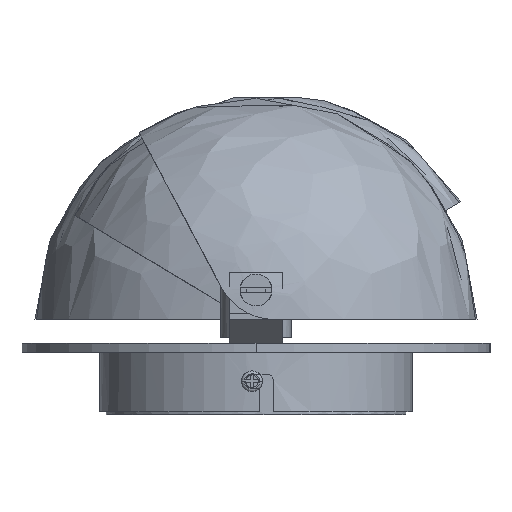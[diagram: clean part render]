
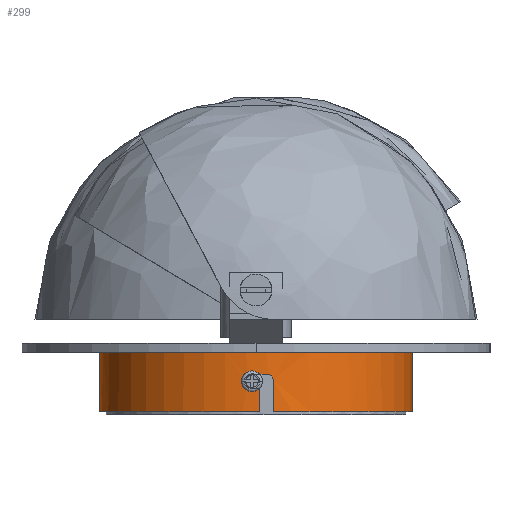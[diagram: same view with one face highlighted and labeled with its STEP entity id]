
A CAD part, left-side view. The second image highlights one B-rep face of the part: STEP entity #299.
In plain terms, the highlighted free-form (B-spline) face has degree [2, 1] with [5, 2] control points.
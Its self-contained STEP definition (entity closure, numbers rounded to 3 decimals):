
#299=ADVANCED_FACE('',(#710),#5749,.T.);
#710=FACE_OUTER_BOUND('',#1109,.T.);
#1109=EDGE_LOOP('',(#2606,#2607,#2608,#2609,#2610,#2611,#2612,#2613,#2614,
#2615,#2616));
#2606=ORIENTED_EDGE('',*,*,#3892,.T.);
#2607=ORIENTED_EDGE('',*,*,#3893,.T.);
#2608=ORIENTED_EDGE('',*,*,#3717,.T.);
#2609=ORIENTED_EDGE('',*,*,#3849,.T.);
#2610=ORIENTED_EDGE('',*,*,#3862,.T.);
#2611=ORIENTED_EDGE('',*,*,#3856,.F.);
#2612=ORIENTED_EDGE('',*,*,#3867,.F.);
#2613=ORIENTED_EDGE('',*,*,#3872,.T.);
#2614=ORIENTED_EDGE('',*,*,#3720,.F.);
#2615=ORIENTED_EDGE('',*,*,#3718,.F.);
#2616=ORIENTED_EDGE('',*,*,#3722,.T.);
#3717=EDGE_CURVE('',#5305,#5303,#4719,.T.);
#3718=EDGE_CURVE('',#5299,#5306,#4266,.T.);
#3720=EDGE_CURVE('',#5306,#5300,#4268,.T.);
#3722=EDGE_CURVE('',#5299,#5405,#4270,.T.);
#3849=EDGE_CURVE('',#5303,#5385,#4308,.T.);
#3856=EDGE_CURVE('',#5387,#5388,#4315,.T.);
#3862=EDGE_CURVE('',#5385,#5388,#4810,.T.);
#3867=EDGE_CURVE('',#5391,#5387,#4815,.T.);
#3872=EDGE_CURVE('',#5391,#5300,#4820,.T.);
#3892=EDGE_CURVE('',#5405,#5406,#4337,.T.);
#3893=EDGE_CURVE('',#5406,#5305,#4338,.T.);
#4266=(
BOUNDED_CURVE()
B_SPLINE_CURVE(1,(#12141,#12142),.UNSPECIFIED.,.F.,.F.)
B_SPLINE_CURVE_WITH_KNOTS((2,2),(0.,19.),.UNSPECIFIED.)
CURVE()
GEOMETRIC_REPRESENTATION_ITEM()
RATIONAL_B_SPLINE_CURVE((1.,1.))
REPRESENTATION_ITEM('')
);
#4268=(
BOUNDED_CURVE()
B_SPLINE_CURVE(2,(#12146,#12147,#12148),.UNSPECIFIED.,.F.,.F.)
B_SPLINE_CURVE_WITH_KNOTS((3,3),(0.,72.442),.UNSPECIFIED.)
CURVE()
GEOMETRIC_REPRESENTATION_ITEM()
RATIONAL_B_SPLINE_CURVE((1.,0.746,1.))
REPRESENTATION_ITEM('')
);
#4270=(
BOUNDED_CURVE()
B_SPLINE_CURVE(2,(#12154,#12155,#12156,#12157,#12158),.UNSPECIFIED.,.F.,
 .F.)
B_SPLINE_CURVE_WITH_KNOTS((3,2,3),(0.,78.54,157.08),
 .UNSPECIFIED.)
CURVE()
GEOMETRIC_REPRESENTATION_ITEM()
RATIONAL_B_SPLINE_CURVE((1.,0.707,1.,0.707,1.))
REPRESENTATION_ITEM('')
);
#4308=(
BOUNDED_CURVE()
B_SPLINE_CURVE(2,(#12756,#12757,#12758,#12759,#12760),.UNSPECIFIED.,.F.,
 .F.)
B_SPLINE_CURVE_WITH_KNOTS((3,2,3),(77.323,78.54,79.756),
 .UNSPECIFIED.)
CURVE()
GEOMETRIC_REPRESENTATION_ITEM()
RATIONAL_B_SPLINE_CURVE((1.,1.,1.,1.,1.))
REPRESENTATION_ITEM('')
);
#4315=(
BOUNDED_CURVE()
B_SPLINE_CURVE(2,(#12782,#12783,#12784,#12785,#12786),.UNSPECIFIED.,.F.,
 .F.)
B_SPLINE_CURVE_WITH_KNOTS((3,2,3),(74.595,78.54,79.756),
 .UNSPECIFIED.)
CURVE()
GEOMETRIC_REPRESENTATION_ITEM()
RATIONAL_B_SPLINE_CURVE((1.,0.999,1.,1.,1.))
REPRESENTATION_ITEM('')
);
#4337=(
BOUNDED_CURVE()
B_SPLINE_CURVE(1,(#13067,#13068),.UNSPECIFIED.,.F.,.F.)
B_SPLINE_CURVE_WITH_KNOTS((2,2),(0.,19.),.UNSPECIFIED.)
CURVE()
GEOMETRIC_REPRESENTATION_ITEM()
RATIONAL_B_SPLINE_CURVE((1.,1.))
REPRESENTATION_ITEM('')
);
#4338=(
BOUNDED_CURVE()
B_SPLINE_CURVE(2,(#13069,#13070,#13071,#13072,#13073),.UNSPECIFIED.,.F.,
 .F.)
B_SPLINE_CURVE_WITH_KNOTS((3,2,3),(-157.08,-78.54,-77.323),
 .UNSPECIFIED.)
CURVE()
GEOMETRIC_REPRESENTATION_ITEM()
RATIONAL_B_SPLINE_CURVE((1.,0.707,1.,1.,1.))
REPRESENTATION_ITEM('')
);
#4719=B_SPLINE_CURVE_WITH_KNOTS('',1,(#12139,#12140),.UNSPECIFIED.,.F.,
 .F.,(2,2),(-19.,-11.5),.UNSPECIFIED.);
#4810=B_SPLINE_CURVE_WITH_KNOTS('',3,(#12820,#12821,#12822,#12823,#12824,
#12825,#12826,#12827,#12828,#12829,#12830,#12831,#12832,#12833,#12834,#12835,
#12836,#12837,#12838),.UNSPECIFIED.,.F.,.F.,(4,2,2,2,3,2,2,2,4),(0.,0.89,
1.779,2.669,3.559,4.448,5.338,
6.228,7.117),.UNSPECIFIED.);
#4815=B_SPLINE_CURVE_WITH_KNOTS('',3,(#12889,#12890,#12891,#12892,#12893,
#12894,#12895,#12896,#12897,#12898),.UNSPECIFIED.,.F.,.F.,(4,2,2,2,4),(0.,
0.792,1.585,2.376,3.168),
 .UNSPECIFIED.);
#4820=B_SPLINE_CURVE_WITH_KNOTS('',1,(#12923,#12924),.UNSPECIFIED.,.F.,
 .F.,(2,2),(9.,19.),.UNSPECIFIED.);
#5299=VERTEX_POINT('',#11696);
#5300=VERTEX_POINT('',#11697);
#5303=VERTEX_POINT('',#11700);
#5305=VERTEX_POINT('',#11702);
#5306=VERTEX_POINT('',#11703);
#5385=VERTEX_POINT('',#11782);
#5387=VERTEX_POINT('',#11784);
#5388=VERTEX_POINT('',#11785);
#5391=VERTEX_POINT('',#11788);
#5405=VERTEX_POINT('',#11802);
#5406=VERTEX_POINT('',#11803);
#5749=(
BOUNDED_SURFACE()
B_SPLINE_SURFACE(2,1,((#11095,#11096),(#11097,#11098),(#11099,#11100),(#11101,
#11102),(#11103,#11104)),.UNSPECIFIED.,.F.,.F.,.F.)
B_SPLINE_SURFACE_WITH_KNOTS((3,2,3),(2,2),(0.,78.54,157.08),
(0.,20.),.UNSPECIFIED.)
GEOMETRIC_REPRESENTATION_ITEM()
RATIONAL_B_SPLINE_SURFACE(((1.,1.),(0.707,0.707),
(1.,1.),(0.707,0.707),(1.,1.)))
REPRESENTATION_ITEM('')
SURFACE()
);
#11095=CARTESIAN_POINT('',(750.326,-871.719,0.));
#11096=CARTESIAN_POINT('',(750.326,-871.719,-20.));
#11097=CARTESIAN_POINT('',(700.326,-871.719,0.));
#11098=CARTESIAN_POINT('',(700.326,-871.719,-20.));
#11099=CARTESIAN_POINT('',(700.326,-821.719,0.));
#11100=CARTESIAN_POINT('',(700.326,-821.719,-20.));
#11101=CARTESIAN_POINT('',(700.326,-771.719,0.));
#11102=CARTESIAN_POINT('',(700.326,-771.719,-20.));
#11103=CARTESIAN_POINT('',(750.326,-771.719,0.));
#11104=CARTESIAN_POINT('',(750.326,-771.719,-20.));
#11696=CARTESIAN_POINT('',(750.326,-871.719,0.));
#11697=CARTESIAN_POINT('',(700.641,-827.319,-19.));
#11700=CARTESIAN_POINT('',(700.338,-822.819,-11.5));
#11702=CARTESIAN_POINT('',(700.338,-822.819,-19.));
#11703=CARTESIAN_POINT('',(750.326,-871.719,-19.));
#11782=CARTESIAN_POINT('',(700.338,-820.619,-11.5));
#11784=CARTESIAN_POINT('',(700.456,-825.319,-7.));
#11785=CARTESIAN_POINT('',(700.338,-820.619,-7.));
#11788=CARTESIAN_POINT('',(700.641,-827.319,-9.));
#11802=CARTESIAN_POINT('',(750.326,-771.719,0.));
#11803=CARTESIAN_POINT('',(750.326,-771.719,-19.));
#12139=CARTESIAN_POINT('',(700.338,-822.819,-19.));
#12140=CARTESIAN_POINT('',(700.338,-822.819,-11.5));
#12141=CARTESIAN_POINT('',(750.326,-871.719,0.));
#12142=CARTESIAN_POINT('',(750.326,-871.719,-19.));
#12146=CARTESIAN_POINT('',(750.326,-871.719,-19.));
#12147=CARTESIAN_POINT('',(705.645,-871.719,-19.));
#12148=CARTESIAN_POINT('',(700.641,-827.319,-19.));
#12154=CARTESIAN_POINT('',(750.326,-871.719,0.));
#12155=CARTESIAN_POINT('',(700.326,-871.719,0.));
#12156=CARTESIAN_POINT('',(700.326,-821.719,0.));
#12157=CARTESIAN_POINT('',(700.326,-771.719,0.));
#12158=CARTESIAN_POINT('',(750.326,-771.719,0.));
#12756=CARTESIAN_POINT('',(700.338,-822.819,-11.5));
#12757=CARTESIAN_POINT('',(700.326,-822.269,-11.5));
#12758=CARTESIAN_POINT('',(700.326,-821.719,-11.5));
#12759=CARTESIAN_POINT('',(700.326,-821.169,-11.5));
#12760=CARTESIAN_POINT('',(700.338,-820.619,-11.5));
#12782=CARTESIAN_POINT('',(700.456,-825.319,-7.));
#12783=CARTESIAN_POINT('',(700.326,-823.522,-7.));
#12784=CARTESIAN_POINT('',(700.326,-821.719,-7.));
#12785=CARTESIAN_POINT('',(700.326,-821.169,-7.));
#12786=CARTESIAN_POINT('',(700.338,-820.619,-7.));
#12820=CARTESIAN_POINT('',(700.338,-820.619,-11.5));
#12821=CARTESIAN_POINT('',(700.345,-820.324,-11.5));
#12822=CARTESIAN_POINT('',(700.354,-820.031,-11.442));
#12823=CARTESIAN_POINT('',(700.375,-819.485,-11.216));
#12824=CARTESIAN_POINT('',(700.387,-819.237,-11.05));
#12825=CARTESIAN_POINT('',(700.41,-818.82,-10.632));
#12826=CARTESIAN_POINT('',(700.42,-818.654,-10.384));
#12827=CARTESIAN_POINT('',(700.435,-818.428,-9.838));
#12828=CARTESIAN_POINT('',(700.439,-818.369,-9.546));
#12829=CARTESIAN_POINT('',(700.439,-818.369,-9.25));
#12830=CARTESIAN_POINT('',(700.439,-818.369,-8.954));
#12831=CARTESIAN_POINT('',(700.435,-818.428,-8.662));
#12832=CARTESIAN_POINT('',(700.42,-818.654,-8.116));
#12833=CARTESIAN_POINT('',(700.41,-818.82,-7.868));
#12834=CARTESIAN_POINT('',(700.387,-819.237,-7.45));
#12835=CARTESIAN_POINT('',(700.375,-819.485,-7.284));
#12836=CARTESIAN_POINT('',(700.354,-820.031,-7.058));
#12837=CARTESIAN_POINT('',(700.345,-820.324,-7.));
#12838=CARTESIAN_POINT('',(700.338,-820.619,-7.));
#12889=CARTESIAN_POINT('',(700.641,-827.319,-9.));
#12890=CARTESIAN_POINT('',(700.641,-827.319,-8.737));
#12891=CARTESIAN_POINT('',(700.635,-827.267,-8.476));
#12892=CARTESIAN_POINT('',(700.613,-827.066,-7.99));
#12893=CARTESIAN_POINT('',(700.597,-826.918,-7.77));
#12894=CARTESIAN_POINT('',(700.559,-826.546,-7.399));
#12895=CARTESIAN_POINT('',(700.538,-826.326,-7.252));
#12896=CARTESIAN_POINT('',(700.496,-825.841,-7.052));
#12897=CARTESIAN_POINT('',(700.475,-825.582,-7.));
#12898=CARTESIAN_POINT('',(700.456,-825.319,-7.));
#12923=CARTESIAN_POINT('',(700.641,-827.319,-9.));
#12924=CARTESIAN_POINT('',(700.641,-827.319,-19.));
#13067=CARTESIAN_POINT('',(750.326,-771.719,0.));
#13068=CARTESIAN_POINT('',(750.326,-771.719,-19.));
#13069=CARTESIAN_POINT('',(750.326,-771.719,-19.));
#13070=CARTESIAN_POINT('',(700.326,-771.719,-19.));
#13071=CARTESIAN_POINT('',(700.326,-821.719,-19.));
#13072=CARTESIAN_POINT('',(700.326,-822.269,-19.));
#13073=CARTESIAN_POINT('',(700.338,-822.819,-19.));
